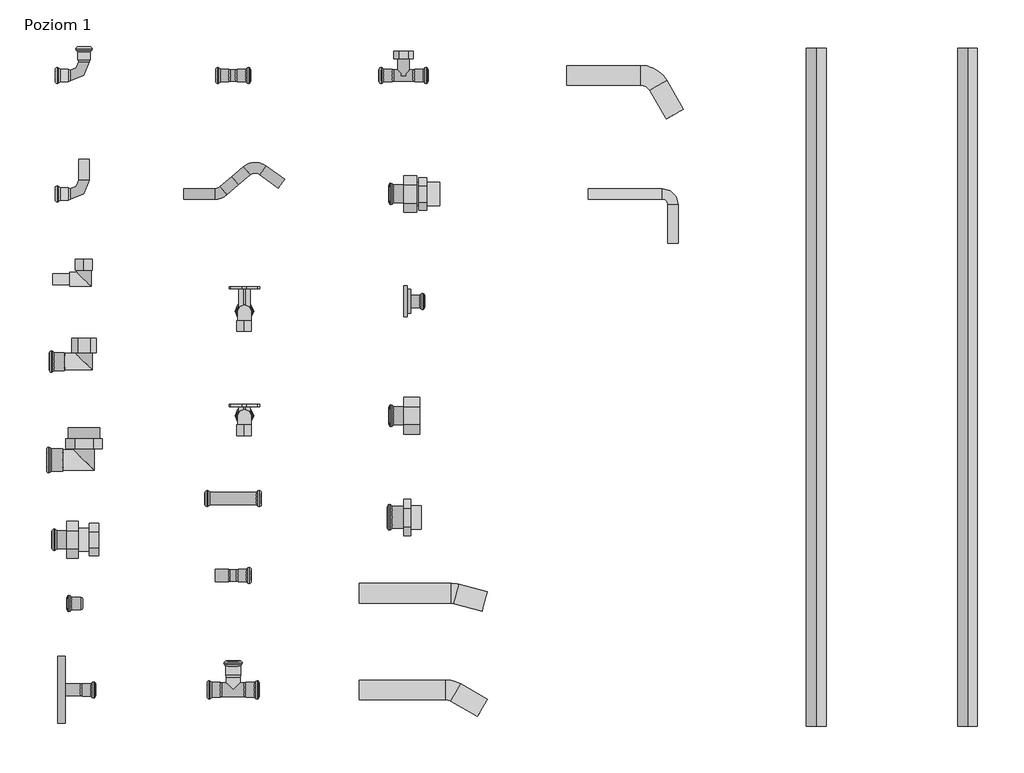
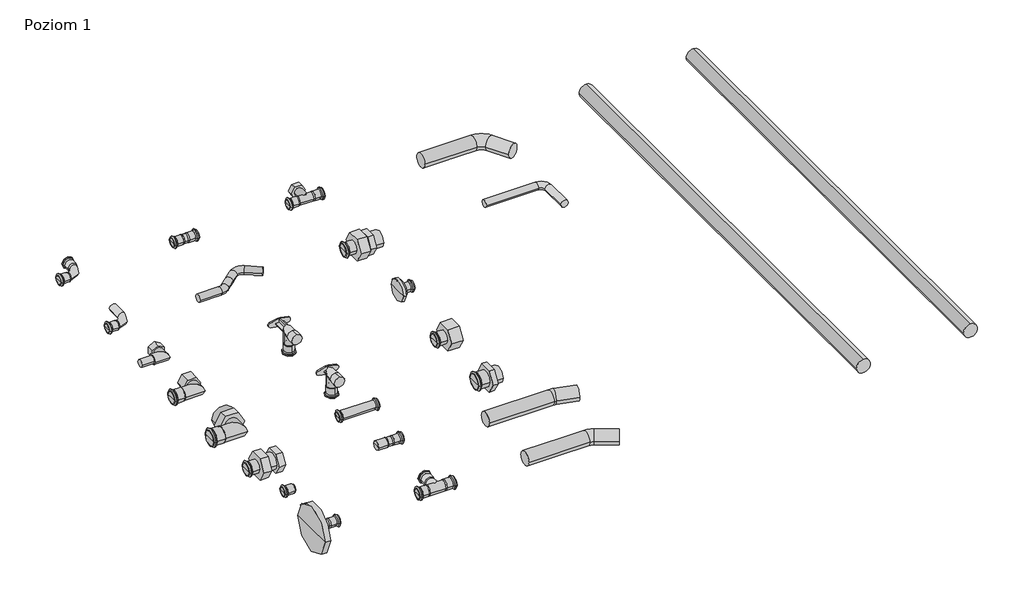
# One storey: 24 pipe fittings, 2 pipe segments.
"""IFC4 building model written with IfcOpenShell, lengths in millimetres."""

from ifc_helpers import new_model, si_unit, point, frame, frame_2d, origin, place, context, project, spatial, circle_curve, trimmed, segment, composite_curve, outline, extrude, transform, mapped, element, save
from components import pipe_fitting_ae6cc862, pipe_fitting_c5b9b631, pipe_fitting_3275319e, pipe_fitting_2707d0cc, pipe_fitting_9ad364fa, pipe_fitting_2177f3ef, pipe_fitting_d68aeb2b, pipe_fitting_a09a2b74, pipe_fitting_b5278f3b, pipe_fitting_37007416, pipe_fitting_00fbd71d, pipe_fitting_33497ba9, pipe_fitting_02114148, pipe_fitting_659a0c57, pipe_fitting_5e28d667, pipe_fitting_fd26fefa, pipe_fitting_0150fbcf, pipe_fitting_643fa46a, pipe_fitting_2f519a32, pipe_fitting_f741bfbc, pipe_fitting_2844614e, pipe_fitting_977f48e0, pipe_fitting_b2fb5b33, pipe_fitting_a796891b

model = new_model("IFC4")

# Units and contexts
model_context = context("Model", 3, world=origin())
ifc_project = project(units=[si_unit("LENGTHUNIT", "METRE", prefix="MILLI")], contexts=[model_context])

# Site, building, storey
site = spatial("IfcSite", under=ifc_project)
building = spatial("IfcBuilding", under=site)
storey = spatial("IfcBuildingStorey", under=building, Name="Poziom 1", Elevation=0.0)

# Pipe fittings
placement = place(None, origin())
pipe_fitting_shape = pipe_fitting_ae6cc862(model_context)
element("IfcPipeFitting", 1, ObjectType="KAN-therm Inox kolano 45,90 : KAN-therm Inox kolano 45,90", at=placement, inside=storey, context=model_context, shape_type="MappedRepresentation", body=[
    mapped(pipe_fitting_shape, transform((-10201.1866188, 564.9752233, 0.0), x_axis=(1.0, 0.0, 0.0), y_axis=(0.0, 1.0, 0.0), z_axis=(0.0, 0.0, 1.0))),
])
pipe_fitting_2_shape = pipe_fitting_c5b9b631(model_context)
element("IfcPipeFitting", 2, ObjectType="KAN-therm Inox kolano nyplowe 45,90 : KAN-therm Inox kolano nyplowe 45,90", at=placement, inside=storey, context=model_context, shape_type="MappedRepresentation", body=[
    mapped(pipe_fitting_2_shape, transform((-10201.1866188, 397.2910723, 0.0), x_axis=(1.0, 0.0, 0.0), y_axis=(0.0, 1.0, 0.0), z_axis=(0.0, 0.0, 1.0))),
])
pipe_fitting_3_shape = pipe_fitting_3275319e(model_context)
element("IfcPipeFitting", 3, ObjectType="KAN-therm Inox kolano nyplowe z GW krótkie : 15×Rp½ krótkie", at=placement, inside=storey, context=model_context, shape_type="MappedRepresentation", body=[
    mapped(pipe_fitting_3_shape, transform((-10201.1866188, 276.5097041, 0.0), x_axis=(1.0, 0.0, 0.0), y_axis=(0.0, 1.0, 0.0), z_axis=(0.0, 0.0, 1.0))),
])
pipe_fitting_4_shape = pipe_fitting_2707d0cc(model_context)
element("IfcPipeFitting", 4, ObjectType="KAN-therm Inox kołnierz : KAN-therm Inox kołnierz", at=placement, inside=storey, context=model_context, shape_type="MappedRepresentation", body=[
    mapped(pipe_fitting_4_shape, transform((-10238.4255161, -305.041108, 0.0), x_axis=(1.0, 0.0, 0.0), y_axis=(0.0, 1.0, 0.0), z_axis=(0.0, 0.0, 1.0))),
])
pipe_fitting_5_shape = pipe_fitting_9ad364fa(model_context)
element("IfcPipeFitting", 5, ObjectType="KAN-therm Inox korek : KAN-therm Inox korek", at=placement, inside=storey, context=model_context, shape_type="MappedRepresentation", body=[
    mapped(pipe_fitting_5_shape, transform((-10225.5841054, -182.7260543, 0.0), x_axis=(1.0, 0.0, 0.0), y_axis=(0.0, 1.0, 0.0), z_axis=(0.0, 0.0, 1.0))),
])
pipe_fitting_6_shape = pipe_fitting_2177f3ef(model_context)
element("IfcPipeFitting", 6, ObjectType="KAN-therm Inox łuk 15 : KAN-therm Inox łuk 15", at=placement, inside=storey, context=model_context, shape_type="MappedRepresentation", body=[
    mapped(pipe_fitting_6_shape, transform((-9811.2813633, -168.2120132, 0.0), x_axis=(1.0, 0.0, 0.0), y_axis=(0.0, 1.0, 0.0), z_axis=(0.0, 0.0, 1.0))),
])
pipe_fitting_7_shape = pipe_fitting_d68aeb2b(model_context)
element("IfcPipeFitting", 7, ObjectType="KAN-therm Inox łuk 30 : KAN-therm Inox łuk 30", at=placement, inside=storey, context=model_context, shape_type="MappedRepresentation", body=[
    mapped(pipe_fitting_7_shape, transform((-9811.2813633, -305.041108, 0.0), x_axis=(1.0, 0.0, 0.0), y_axis=(0.0, 1.0, 0.0), z_axis=(0.0, 0.0, 1.0))),
])
pipe_fitting_8_shape = pipe_fitting_a09a2b74(model_context)
element("IfcPipeFitting", 8, ObjectType="KAN-therm Inox łuk 60 : KAN-therm Inox łuk 60", at=placement, inside=storey, context=model_context, shape_type="MappedRepresentation", body=[
    mapped(pipe_fitting_8_shape, transform((-9517.2637479, 564.9752233, 0.0), x_axis=(1.0, 0.0, 0.0), y_axis=(0.0, 1.0, 0.0), z_axis=(0.0, 0.0, 1.0))),
])
pipe_fitting_9_shape = pipe_fitting_b5278f3b(model_context)
element("IfcPipeFitting", 9, ObjectType="KAN-therm Inox łuk 90 : KAN-therm Inox łuk 90", at=placement, inside=storey, context=model_context, shape_type="MappedRepresentation", body=[
    mapped(pipe_fitting_9_shape, transform((-9487.0382038, 397.2910723, 0.0), x_axis=(1.0, 0.0, 0.0), y_axis=(0.0, 1.0, 0.0), z_axis=(0.0, 0.0, 1.0))),
])
pipe_fitting_10_shape = pipe_fitting_37007416(model_context)
element("IfcPipeFitting", 10, ObjectType="KAN-therm Inox mufa : KAN-therm Inox mufa", at=placement, inside=storey, context=model_context, shape_type="MappedRepresentation", body=[
    mapped(pipe_fitting_10_shape, transform((-9989.9354295, 564.9752233, 0.0), x_axis=(1.0, 0.0, 0.0), y_axis=(0.0, 1.0, 0.0), z_axis=(0.0, 0.0, 1.0))),
])
pipe_fitting_11_shape = pipe_fitting_00fbd71d(model_context)
element("IfcPipeFitting", 11, ObjectType="KAN-therm Inox obejście : KAN-therm Inox obejście", at=placement, inside=storey, context=model_context, shape_type="MappedRepresentation", body=[
    mapped(pipe_fitting_11_shape, transform((-10059.7461921, 397.2910723, 0.0), x_axis=(1.0, 0.0, 0.0), y_axis=(0.0, 1.0, 0.0), z_axis=(0.0, 0.0, 1.0))),
])
pipe_fitting_12_shape = pipe_fitting_33497ba9(model_context)
element("IfcPipeFitting", 12, ObjectType="KAN-therm Inox przedłużka : KAN-therm Inox przedłużka", at=placement, inside=storey, context=model_context, shape_type="MappedRepresentation", body=[
    mapped(pipe_fitting_12_shape, transform((-9989.9354295, -34.175349, 0.0), x_axis=(1.0, 0.0, 0.0), y_axis=(0.0, 1.0, 0.0), z_axis=(0.0, 0.0, 1.0))),
])
pipe_fitting_13_shape = pipe_fitting_02114148(model_context)
element("IfcPipeFitting", 13, ObjectType="KAN-therm Inox redukcja nyplowa : KAN-therm Inox redukcja nyplowa", at=placement, inside=storey, context=model_context, shape_type="MappedRepresentation", body=[
    mapped(pipe_fitting_13_shape, transform((-10015.0673041, -143.0801387, 0.0), x_axis=(1.0, 0.0, 0.0), y_axis=(0.0, 1.0, 0.0), z_axis=(0.0, 0.0, 1.0))),
])
pipe_fitting_14_shape = pipe_fitting_659a0c57(model_context)
element("IfcPipeFitting", 14, ObjectType="KAN-therm Inox trójnik : KAN-therm Inox trójnik", at=placement, inside=storey, context=model_context, shape_type="MappedRepresentation", body=[
    mapped(pipe_fitting_14_shape, transform((-9989.9354295, -305.041108, 0.0), x_axis=(1.0, 0.0, 0.0), y_axis=(0.0, 1.0, 0.0), z_axis=(0.0, 0.0, 1.0))),
])
pipe_fitting_15_shape = pipe_fitting_5e28d667(model_context)
element("IfcPipeFitting", 15, ObjectType="KAN-therm Inox tuleja kołnierzowa : KAN-therm Inox tuleja kołnierzowa", at=placement, inside=storey, context=model_context, shape_type="MappedRepresentation", body=[
    mapped(pipe_fitting_15_shape, transform((-9748.6781702, 245.0677016, 0.0), x_axis=(1.0, 0.0, 0.0), y_axis=(0.0, 1.0, 0.0), z_axis=(0.0, 0.0, 1.0))),
])
pipe_fitting_16_shape = pipe_fitting_fd26fefa(model_context)
element("IfcPipeFitting", 16, ObjectType="KAN-therm Inox kolano z GZ : 1\"", at=placement, inside=storey, context=model_context, shape_type="MappedRepresentation", body=[
    mapped(pipe_fitting_16_shape, transform((-10201.1866188, 20.5015347, 0.0), x_axis=(1.0, 0.0, 0.0), y_axis=(0.0, 1.0, 0.0), z_axis=(0.0, 0.0, 1.0))),
])
pipe_fitting_17_shape = pipe_fitting_0150fbcf(model_context)
element("IfcPipeFitting", 17, ObjectType="KAN-therm Inox śrubunek GW : 1\"", at=placement, inside=storey, context=model_context, shape_type="MappedRepresentation", body=[
    mapped(pipe_fitting_17_shape, transform((-10225.5841054, -92.3161755, 0.0), x_axis=(1.0, 0.0, 0.0), y_axis=(0.0, 1.0, 0.0), z_axis=(0.0, 0.0, 1.0))),
])
pipe_fitting_18_shape = pipe_fitting_643fa46a(model_context)
element("IfcPipeFitting", 18, ObjectType="KAN-therm Inox śrubunek GZ : 1\"", at=placement, inside=storey, context=model_context, shape_type="MappedRepresentation", body=[
    mapped(pipe_fitting_18_shape, transform((-9748.6781702, 397.2910723, 0.0), x_axis=(1.0, 0.0, 0.0), y_axis=(0.0, 1.0, 0.0), z_axis=(0.0, 0.0, 1.0))),
])
pipe_fitting_19_shape = pipe_fitting_2f519a32(model_context)
element("IfcPipeFitting", 19, ObjectType="KAN-therm Inox złączka z GW : 1\"", at=placement, inside=storey, context=model_context, shape_type="MappedRepresentation", body=[
    mapped(pipe_fitting_19_shape, transform((-9748.6781702, 83.1067323, 0.0), x_axis=(1.0, 0.0, 0.0), y_axis=(0.0, 1.0, 0.0), z_axis=(0.0, 0.0, 1.0))),
])
pipe_fitting_20_shape = pipe_fitting_f741bfbc(model_context)
element("IfcPipeFitting", 20, ObjectType="KAN-therm Inox złączka z GZ : 1\"", at=placement, inside=storey, context=model_context, shape_type="MappedRepresentation", body=[
    mapped(pipe_fitting_20_shape, transform((-9748.6781702, -60.6993674, 0.0), x_axis=(1.0, 0.0, 0.0), y_axis=(0.0, 1.0, 0.0), z_axis=(0.0, 0.0, 1.0))),
])
pipe_fitting_21_shape = pipe_fitting_2844614e(model_context)
element("IfcPipeFitting", 21, ObjectType="KAN-therm Inox trójnik z GW : 1/2\"", at=placement, inside=storey, context=model_context, shape_type="MappedRepresentation", body=[
    mapped(pipe_fitting_21_shape, transform((-9748.6781702, 564.9752233, 0.0), x_axis=(1.0, 0.0, 0.0), y_axis=(0.0, 1.0, 0.0), z_axis=(0.0, 0.0, 1.0))),
])
pipe_fitting_22_shape = pipe_fitting_977f48e0(model_context)
element("IfcPipeFitting", 22, ObjectType="KAN-therm Inox podejście pod baterię z uszami krótkie : 1/2\"", at=placement, inside=storey, context=model_context, shape_type="MappedRepresentation", body=[
    mapped(pipe_fitting_22_shape, transform((-9974.0387148, 83.1067323, 0.0), x_axis=(1.0, 0.0, 0.0), y_axis=(0.0, 1.0, 0.0), z_axis=(0.0, 0.0, 1.0))),
])
pipe_fitting_23_shape = pipe_fitting_b2fb5b33(model_context)
element("IfcPipeFitting", 23, ObjectType="KAN-therm Inox podejście pod baterię z uszami długie : 1/2\"", at=placement, inside=storey, context=model_context, shape_type="MappedRepresentation", body=[
    mapped(pipe_fitting_23_shape, transform((-9974.0387148, 230.95897, 0.0), x_axis=(1.0, 0.0, 0.0), y_axis=(0.0, 1.0, 0.0), z_axis=(0.0, 0.0, 1.0))),
])
pipe_fitting_24_shape = pipe_fitting_a796891b(model_context)
element("IfcPipeFitting", 24, ObjectType="KAN-therm Inox kolano z GW : 3/4\"", at=placement, inside=storey, context=model_context, shape_type="MappedRepresentation", body=[
    mapped(pipe_fitting_24_shape, transform((-10201.1866188, 159.9213157, 0.0), x_axis=(1.0, 0.0, 0.0), y_axis=(0.0, 1.0, 0.0), z_axis=(0.0, 0.0, 1.0))),
])

# Pipe segments
element("IfcPipeSegment", 25, ObjectType="KAN-therm Inox 1.4404", at=placement, inside=storey, context=model_context, shape_type="SweptSolid", body=[
    extrude(outline(composite_curve([segment(trimmed(circle_curve(frame_2d((0.0, -9164.1606583)), 14.0), [point((0.0, -9178.1606583))], [point((-14.0, -9164.1606583))], False, "CARTESIAN"), True, "CONTINUOUS"), segment(trimmed(circle_curve(frame_2d((0.0, -9164.1606583)), 14.0), [point((-14.0, -9164.1606583))], [point((0.0, -9150.1606583))], False, "CARTESIAN"), True, "CONTINUOUS"), segment(trimmed(circle_curve(frame_2d((0.0, -9164.1606583)), 14.0), [point((0.0, -9150.1606583))], [point((14.0, -9164.1606583))], False, "CARTESIAN"), True, "CONTINUOUS"), segment(trimmed(circle_curve(frame_2d((0.0, -9164.1606583)), 14.0), [point((14.0, -9164.1606583))], [point((0.0, -9178.1606583))], False, "CARTESIAN"), True, "CONTINUOUS")], self_intersect=False)), frame((0.0, -356.4768959, 0.0), z_axis=(0.0, 1.0, 0.0), x_axis=(0.0, 0.0, 1.0)), (0.0, 0.0, 1.0), 960.0),
])
element("IfcPipeSegment", 26, ObjectType="KAN-therm Inox 1.4521", at=placement, inside=storey, context=model_context, shape_type="SweptSolid", body=[
    extrude(outline(composite_curve([segment(trimmed(circle_curve(frame_2d((0.0, -8949.9927969)), 14.0), [point((0.0, -8963.9927969))], [point((-14.0, -8949.9927969))], False, "CARTESIAN"), True, "CONTINUOUS"), segment(trimmed(circle_curve(frame_2d((0.0, -8949.9927969)), 14.0), [point((-14.0, -8949.9927969))], [point((0.0, -8935.9927969))], False, "CARTESIAN"), True, "CONTINUOUS"), segment(trimmed(circle_curve(frame_2d((0.0, -8949.9927969)), 14.0), [point((0.0, -8935.9927969))], [point((14.0, -8949.9927969))], False, "CARTESIAN"), True, "CONTINUOUS"), segment(trimmed(circle_curve(frame_2d((0.0, -8949.9927969)), 14.0), [point((14.0, -8949.9927969))], [point((0.0, -8963.9927969))], False, "CARTESIAN"), True, "CONTINUOUS")], self_intersect=False)), frame((0.0, -356.4768959, 0.0), z_axis=(0.0, 1.0, 0.0), x_axis=(0.0, 0.0, 1.0)), (0.0, 0.0, 1.0), 960.0),
])

save(model, "model.ifc")
